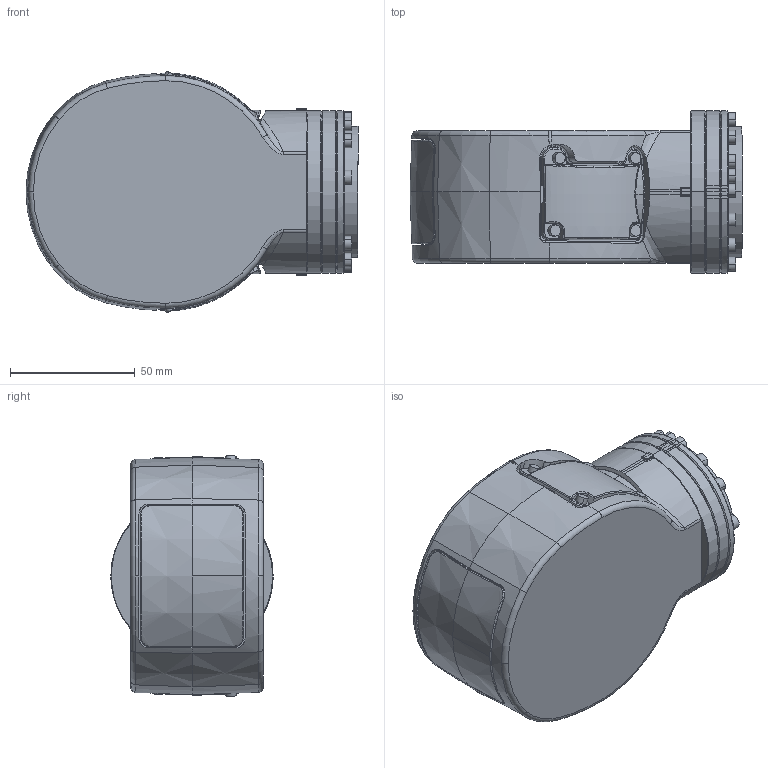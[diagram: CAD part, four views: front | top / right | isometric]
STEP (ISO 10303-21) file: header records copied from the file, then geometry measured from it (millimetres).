
FILE_DESCRIPTION (( 'STEP AP203' ), '1' );
FILE_NAME ('tilt_(900).STEP', '2013-12-01T15:34:48', ( 'ABB' ), ( 'ABB' ), 'SwSTEP 2.0', 'SolidWorks 2012', '' );
FILE_SCHEMA (( 'CONFIG_CONTROL_DESIGN' ));
Length unit declared in the file: millimetre
Products named in the file (1): tilt_(900)
Bounding box: 133 x 65 x 96.84 mm (x, y, z)
Volume: 507579.5 mm3; surface area: 45513.7 mm2
Topology: 1 solids, 1 shells, 600 faces, 1453 edges, 856 vertices
Faces by surface type: cylinder 187, plane 145, bspline 138, torus 59, cone 50, sphere 21
Entity records: 22364 total; most frequent: CARTESIAN_POINT 9371, ORIENTED_EDGE 2880, DIRECTION 2598, EDGE_CURVE 1440, AXIS2_PLACEMENT_3D 1086, VERTEX_POINT 856, CIRCLE 623, EDGE_LOOP 614
